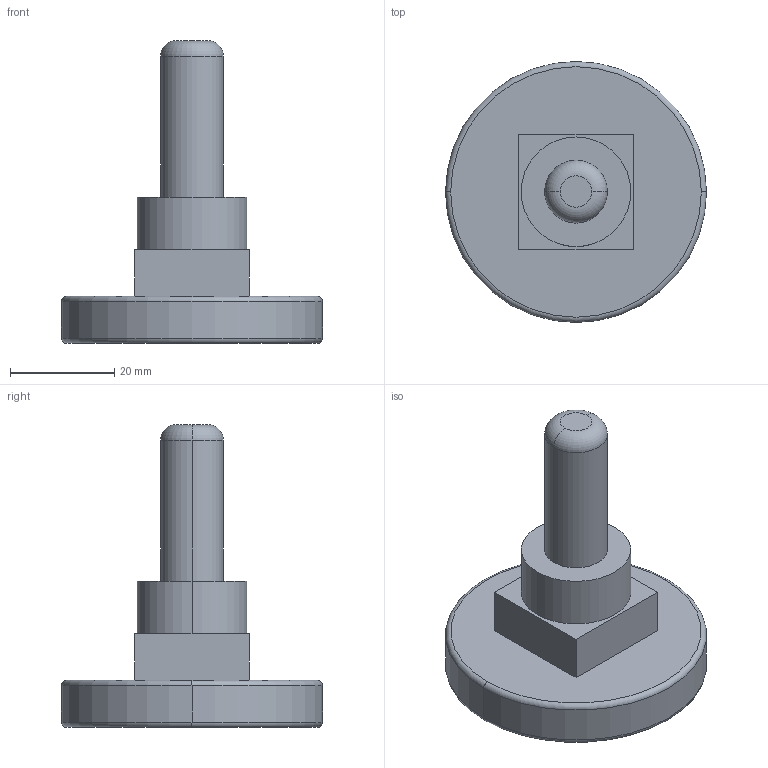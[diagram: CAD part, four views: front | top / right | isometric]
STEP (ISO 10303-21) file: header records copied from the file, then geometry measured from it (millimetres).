
FILE_DESCRIPTION (( 'STEP AP214' ), '1' );
FILE_NAME ('Termometr_bimetaliczny_x_0_3D_AFRISO.STEP', '2022-12-16T13:02:42', ( '' ), ( '' ), 'SwSTEP 2.0', 'SolidWorks 2022', '' );
FILE_SCHEMA (( 'AUTOMOTIVE_DESIGN' ));
Length unit declared in the file: millimetre
Products named in the file (1): Termometr_bimetaliczny_x_0_3D_AFRISO
Bounding box: 50 x 50 x 58 mm (x, y, z)
Volume: 28752.5 mm3; surface area: 7735.1 mm2
Topology: 1 solids, 1 shells, 21 faces, 42 edges, 26 vertices
Faces by surface type: plane 9, torus 6, cylinder 6
Entity records: 586 total; most frequent: DIRECTION 110, CARTESIAN_POINT 90, ORIENTED_EDGE 84, AXIS2_PLACEMENT_3D 46, EDGE_CURVE 42, VERTEX_POINT 26, CIRCLE 24, EDGE_LOOP 24
